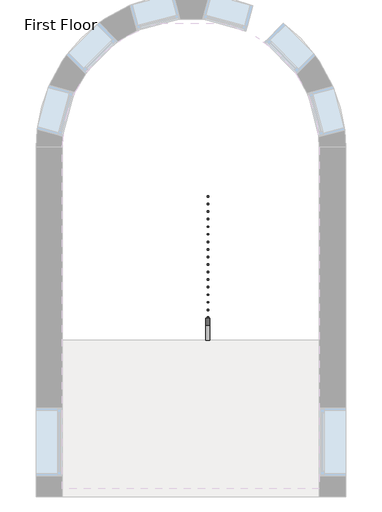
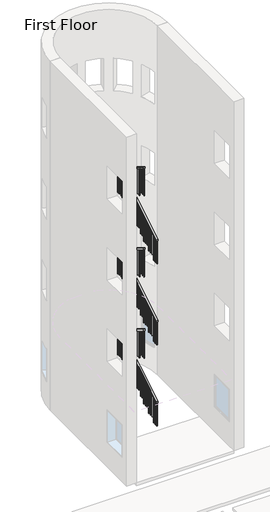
# One storey, part 4 of 5: 1 railing.
"""IFC4 building model written with IfcOpenShell, lengths in millimetres."""

from ifc_helpers import new_model, si_unit, frame, origin, place, context, project, spatial, polyline, outline, extrude, element, save

model = new_model("IFC4")

# Units and contexts
model_context = context("Model", 3, world=origin())
ifc_project = project(units=[si_unit("LENGTHUNIT", "METRE", prefix="MILLI")], contexts=[model_context])

# Site, building, storey
site = spatial("IfcSite", under=ifc_project)
building = spatial("IfcBuilding", under=site)
storey = spatial("IfcBuildingStorey", under=building, Name="First Floor", Elevation=0.0)

# Railing
placement = place(None, origin())
element("IfcRailing", 1, ObjectType="Handrail - Rectangular", at=placement, inside=storey, context=model_context, shape_type="SweptSolid", body=[
    extrude(outline(polyline([(7001.9758812, 7120.3318731), (7001.9758812, 7179.7333333), (9211.7758812, 8519.0060606), (9211.7758812, 8459.6046004), (7001.9758812, 7120.3318731)])), frame((-6042.4149687, 0.0, 0.0), z_axis=(1.0, 0.0, 0.0), x_axis=(0.0, 1.0, 0.0)), (0.0, 0.0, 1.0), 50.8),
    extrude(outline(polyline([(-5991.6149687, 9262.5758812), (-5991.6149687, 9211.7758812), (-6448.8149687, 9211.7758812), (-6448.8149687, 9262.5758812), (-5991.6149687, 9262.5758812)])), frame((0.0, 0.0, 8483.6), z_axis=(0.0, 0.0, 1.0), x_axis=(1.0, 0.0, 0.0)), (0.0, 0.0, 1.0), 50.8),
    extrude(outline(polyline([(9262.5758812, 8688.3393939), (9262.5758812, 8628.9379337), (7001.9758812, 9998.9985397), (7001.9758812, 10058.4), (9262.5758812, 8688.3393939)])), frame((-6499.6149687, 0.0, 0.0), z_axis=(1.0, 0.0, 0.0), x_axis=(0.0, 1.0, 0.0)), (0.0, 0.0, 1.0), 50.8),
    extrude(outline(polyline([(7113.1008812, 9931.6500549), (7113.1008812, 8974.6666667), (7094.0508812, 8974.6666667), (7094.0508812, 9943.1955094), (7113.1008812, 9931.6500549)])), frame((-6483.7399687, 0.0, 0.0), z_axis=(1.0, 0.0, 0.0), x_axis=(0.0, 1.0, 0.0)), (0.0, 0.0, 1.0), 19.05),
    extrude(outline(polyline([(7214.7008812, 9870.0742973), (7214.7008812, 8974.6666667), (7195.6508812, 8974.6666667), (7195.6508812, 9881.6197519), (7214.7008812, 9870.0742973)])), frame((-6483.7399687, 0.0, 0.0), z_axis=(1.0, 0.0, 0.0), x_axis=(0.0, 1.0, 0.0)), (0.0, 0.0, 1.0), 19.05),
    extrude(outline(polyline([(7316.3008812, 9808.4985397), (7316.3008812, 8805.3333333), (7297.2508812, 8805.3333333), (7297.2508812, 9820.0439943), (7316.3008812, 9808.4985397)])), frame((-6483.7399687, 0.0, 0.0), z_axis=(1.0, 0.0, 0.0), x_axis=(0.0, 1.0, 0.0)), (0.0, 0.0, 1.0), 19.05),
    extrude(outline(polyline([(7417.9008812, 9746.9227822), (7417.9008812, 8805.3333333), (7398.8508812, 8805.3333333), (7398.8508812, 9758.4682367), (7417.9008812, 9746.9227822)])), frame((-6483.7399687, 0.0, 0.0), z_axis=(1.0, 0.0, 0.0), x_axis=(0.0, 1.0, 0.0)), (0.0, 0.0, 1.0), 19.05),
    extrude(outline(polyline([(7519.5008812, 9685.3470246), (7519.5008812, 8805.3333333), (7500.4508812, 8805.3333333), (7500.4508812, 9696.8924791), (7519.5008812, 9685.3470246)])), frame((-6483.7399687, 0.0, 0.0), z_axis=(1.0, 0.0, 0.0), x_axis=(0.0, 1.0, 0.0)), (0.0, 0.0, 1.0), 19.05),
    extrude(outline(polyline([(7621.1008812, 9623.771267), (7621.1008812, 8636.0), (7602.0508812, 8636.0), (7602.0508812, 9635.3167216), (7621.1008812, 9623.771267)])), frame((-6483.7399687, 0.0, 0.0), z_axis=(1.0, 0.0, 0.0), x_axis=(0.0, 1.0, 0.0)), (0.0, 0.0, 1.0), 19.05),
    extrude(outline(polyline([(7722.7008812, 9562.1955094), (7722.7008812, 8636.0), (7703.6508812, 8636.0), (7703.6508812, 9573.740964), (7722.7008812, 9562.1955094)])), frame((-6483.7399687, 0.0, 0.0), z_axis=(1.0, 0.0, 0.0), x_axis=(0.0, 1.0, 0.0)), (0.0, 0.0, 1.0), 19.05),
    extrude(outline(polyline([(7824.3008812, 9500.6197519), (7824.3008812, 8636.0), (7805.2508812, 8636.0), (7805.2508812, 9512.1652064), (7824.3008812, 9500.6197519)])), frame((-6483.7399687, 0.0, 0.0), z_axis=(1.0, 0.0, 0.0), x_axis=(0.0, 1.0, 0.0)), (0.0, 0.0, 1.0), 19.05),
    extrude(outline(polyline([(7925.9008812, 9439.0439943), (7925.9008812, 8466.6666667), (7906.8508812, 8466.6666667), (7906.8508812, 9450.5894488), (7925.9008812, 9439.0439943)])), frame((-6483.7399687, 0.0, 0.0), z_axis=(1.0, 0.0, 0.0), x_axis=(0.0, 1.0, 0.0)), (0.0, 0.0, 1.0), 19.05),
    extrude(outline(polyline([(8027.5008812, 9377.4682367), (8027.5008812, 8466.6666667), (8008.4508812, 8466.6666667), (8008.4508812, 9389.0136913), (8027.5008812, 9377.4682367)])), frame((-6483.7399687, 0.0, 0.0), z_axis=(1.0, 0.0, 0.0), x_axis=(0.0, 1.0, 0.0)), (0.0, 0.0, 1.0), 19.05),
    extrude(outline(polyline([(8129.1008812, 9315.8924791), (8129.1008812, 8466.6666667), (8110.0508812, 8466.6666667), (8110.0508812, 9327.4379337), (8129.1008812, 9315.8924791)])), frame((-6483.7399687, 0.0, 0.0), z_axis=(1.0, 0.0, 0.0), x_axis=(0.0, 1.0, 0.0)), (0.0, 0.0, 1.0), 19.05),
    extrude(outline(polyline([(8230.7008812, 9254.3167216), (8230.7008812, 8297.3333333), (8211.6508812, 8297.3333333), (8211.6508812, 9265.8621761), (8230.7008812, 9254.3167216)])), frame((-6483.7399687, 0.0, 0.0), z_axis=(1.0, 0.0, 0.0), x_axis=(0.0, 1.0, 0.0)), (0.0, 0.0, 1.0), 19.05),
    extrude(outline(polyline([(8332.3008812, 9192.740964), (8332.3008812, 8297.3333333), (8313.2508812, 8297.3333333), (8313.2508812, 9204.2864185), (8332.3008812, 9192.740964)])), frame((-6483.7399687, 0.0, 0.0), z_axis=(1.0, 0.0, 0.0), x_axis=(0.0, 1.0, 0.0)), (0.0, 0.0, 1.0), 19.05),
    extrude(outline(polyline([(8433.9008812, 9131.1652064), (8433.9008812, 8128.0), (8414.8508812, 8128.0), (8414.8508812, 9142.710661), (8433.9008812, 9131.1652064)])), frame((-6483.7399687, 0.0, 0.0), z_axis=(1.0, 0.0, 0.0), x_axis=(0.0, 1.0, 0.0)), (0.0, 0.0, 1.0), 19.05),
    extrude(outline(polyline([(8535.5008812, 9069.5894488), (8535.5008812, 8128.0), (8516.4508812, 8128.0), (8516.4508812, 9081.1349034), (8535.5008812, 9069.5894488)])), frame((-6483.7399687, 0.0, 0.0), z_axis=(1.0, 0.0, 0.0), x_axis=(0.0, 1.0, 0.0)), (0.0, 0.0, 1.0), 19.05),
    extrude(outline(polyline([(8637.1008812, 9008.0136913), (8637.1008812, 8128.0), (8618.0508812, 8128.0), (8618.0508812, 9019.5591458), (8637.1008812, 9008.0136913)])), frame((-6483.7399687, 0.0, 0.0), z_axis=(1.0, 0.0, 0.0), x_axis=(0.0, 1.0, 0.0)), (0.0, 0.0, 1.0), 19.05),
    extrude(outline(polyline([(8738.7008812, 8946.4379337), (8738.7008812, 7958.6666667), (8719.6508812, 7958.6666667), (8719.6508812, 8957.9833882), (8738.7008812, 8946.4379337)])), frame((-6483.7399687, 0.0, 0.0), z_axis=(1.0, 0.0, 0.0), x_axis=(0.0, 1.0, 0.0)), (0.0, 0.0, 1.0), 19.05),
    extrude(outline(polyline([(8840.3008812, 8884.8621761), (8840.3008812, 7958.6666667), (8821.2508812, 7958.6666667), (8821.2508812, 8896.4076307), (8840.3008812, 8884.8621761)])), frame((-6483.7399687, 0.0, 0.0), z_axis=(1.0, 0.0, 0.0), x_axis=(0.0, 1.0, 0.0)), (0.0, 0.0, 1.0), 19.05),
    extrude(outline(polyline([(8941.9008812, 8823.2864185), (8941.9008812, 7958.6666667), (8922.8508812, 7958.6666667), (8922.8508812, 8834.8318731), (8941.9008812, 8823.2864185)])), frame((-6483.7399687, 0.0, 0.0), z_axis=(1.0, 0.0, 0.0), x_axis=(0.0, 1.0, 0.0)), (0.0, 0.0, 1.0), 19.05),
    extrude(outline(polyline([(9043.5008812, 8761.710661), (9043.5008812, 7789.3333333), (9024.4508812, 7789.3333333), (9024.4508812, 8773.2561155), (9043.5008812, 8761.710661)])), frame((-6483.7399687, 0.0, 0.0), z_axis=(1.0, 0.0, 0.0), x_axis=(0.0, 1.0, 0.0)), (0.0, 0.0, 1.0), 19.05),
    extrude(outline(polyline([(9145.1008812, 8700.1349034), (9145.1008812, 7789.3333333), (9126.0508812, 7789.3333333), (9126.0508812, 8711.6803579), (9145.1008812, 8700.1349034)])), frame((-6483.7399687, 0.0, 0.0), z_axis=(1.0, 0.0, 0.0), x_axis=(0.0, 1.0, 0.0)), (0.0, 0.0, 1.0), 19.05),
    extrude(outline(polyline([(-6413.8899687, 9227.6508812), (-6432.9399687, 9227.6508812), (-6432.9399687, 9246.7008812), (-6413.8899687, 9246.7008812), (-6413.8899687, 9227.6508812)])), frame((0.0, 0.0, 7620.0), z_axis=(0.0, 0.0, 1.0), x_axis=(1.0, 0.0, 0.0)), (0.0, 0.0, 1.0), 863.6),
    extrude(outline(polyline([(-6312.2899687, 9227.6508812), (-6331.3399687, 9227.6508812), (-6331.3399687, 9246.7008812), (-6312.2899687, 9246.7008812), (-6312.2899687, 9227.6508812)])), frame((0.0, 0.0, 7620.0), z_axis=(0.0, 0.0, 1.0), x_axis=(1.0, 0.0, 0.0)), (0.0, 0.0, 1.0), 863.6),
    extrude(outline(polyline([(-6210.6899687, 9227.6508812), (-6229.7399687, 9227.6508812), (-6229.7399687, 9246.7008812), (-6210.6899687, 9246.7008812), (-6210.6899687, 9227.6508812)])), frame((0.0, 0.0, 7620.0), z_axis=(0.0, 0.0, 1.0), x_axis=(1.0, 0.0, 0.0)), (0.0, 0.0, 1.0), 863.6),
    extrude(outline(polyline([(-6109.0899687, 9227.6508812), (-6128.1399687, 9227.6508812), (-6128.1399687, 9246.7008812), (-6109.0899687, 9246.7008812), (-6109.0899687, 9227.6508812)])), frame((0.0, 0.0, 7620.0), z_axis=(0.0, 0.0, 1.0), x_axis=(1.0, 0.0, 0.0)), (0.0, 0.0, 1.0), 863.6),
    extrude(outline(polyline([(9145.1008812, 8419.1955094), (9145.1008812, 7450.6666667), (9126.0508812, 7450.6666667), (9126.0508812, 8407.6500549), (9145.1008812, 8419.1955094)])), frame((-6026.5399687, 0.0, 0.0), z_axis=(1.0, 0.0, 0.0), x_axis=(0.0, 1.0, 0.0)), (0.0, 0.0, 1.0), 19.05),
    extrude(outline(polyline([(9043.5008812, 8357.6197519), (9043.5008812, 7450.6666667), (9024.4508812, 7450.6666667), (9024.4508812, 8346.0742973), (9043.5008812, 8357.6197519)])), frame((-6026.5399687, 0.0, 0.0), z_axis=(1.0, 0.0, 0.0), x_axis=(0.0, 1.0, 0.0)), (0.0, 0.0, 1.0), 19.05),
    extrude(outline(polyline([(8941.9008812, 8296.0439943), (8941.9008812, 7281.3333333), (8922.8508812, 7281.3333333), (8922.8508812, 8284.4985397), (8941.9008812, 8296.0439943)])), frame((-6026.5399687, 0.0, 0.0), z_axis=(1.0, 0.0, 0.0), x_axis=(0.0, 1.0, 0.0)), (0.0, 0.0, 1.0), 19.05),
    extrude(outline(polyline([(8840.3008812, 8234.4682367), (8840.3008812, 7281.3333333), (8821.2508812, 7281.3333333), (8821.2508812, 8222.9227822), (8840.3008812, 8234.4682367)])), frame((-6026.5399687, 0.0, 0.0), z_axis=(1.0, 0.0, 0.0), x_axis=(0.0, 1.0, 0.0)), (0.0, 0.0, 1.0), 19.05),
    extrude(outline(polyline([(8738.7008812, 8172.8924791), (8738.7008812, 7281.3333333), (8719.6508812, 7281.3333333), (8719.6508812, 8161.3470246), (8738.7008812, 8172.8924791)])), frame((-6026.5399687, 0.0, 0.0), z_axis=(1.0, 0.0, 0.0), x_axis=(0.0, 1.0, 0.0)), (0.0, 0.0, 1.0), 19.05),
    extrude(outline(polyline([(8637.1008812, 8111.3167216), (8637.1008812, 7112.0), (8618.0508812, 7112.0), (8618.0508812, 8099.771267), (8637.1008812, 8111.3167216)])), frame((-6026.5399687, 0.0, 0.0), z_axis=(1.0, 0.0, 0.0), x_axis=(0.0, 1.0, 0.0)), (0.0, 0.0, 1.0), 19.05),
    extrude(outline(polyline([(8535.5008812, 8049.740964), (8535.5008812, 7112.0), (8516.4508812, 7112.0), (8516.4508812, 8038.1955094), (8535.5008812, 8049.740964)])), frame((-6026.5399687, 0.0, 0.0), z_axis=(1.0, 0.0, 0.0), x_axis=(0.0, 1.0, 0.0)), (0.0, 0.0, 1.0), 19.05),
    extrude(outline(polyline([(8433.9008812, 7988.1652064), (8433.9008812, 7112.0), (8414.8508812, 7112.0), (8414.8508812, 7976.6197519), (8433.9008812, 7988.1652064)])), frame((-6026.5399687, 0.0, 0.0), z_axis=(1.0, 0.0, 0.0), x_axis=(0.0, 1.0, 0.0)), (0.0, 0.0, 1.0), 19.05),
    extrude(outline(polyline([(8332.3008812, 7926.5894488), (8332.3008812, 6942.6666667), (8313.2508812, 6942.6666667), (8313.2508812, 7915.0439943), (8332.3008812, 7926.5894488)])), frame((-6026.5399687, 0.0, 0.0), z_axis=(1.0, 0.0, 0.0), x_axis=(0.0, 1.0, 0.0)), (0.0, 0.0, 1.0), 19.05),
    extrude(outline(polyline([(8230.7008812, 7865.0136913), (8230.7008812, 6942.6666667), (8211.6508812, 6942.6666667), (8211.6508812, 7853.4682367), (8230.7008812, 7865.0136913)])), frame((-6026.5399687, 0.0, 0.0), z_axis=(1.0, 0.0, 0.0), x_axis=(0.0, 1.0, 0.0)), (0.0, 0.0, 1.0), 19.05),
    extrude(outline(polyline([(8129.1008812, 7803.4379337), (8129.1008812, 6942.6666667), (8110.0508812, 6942.6666667), (8110.0508812, 7791.8924791), (8129.1008812, 7803.4379337)])), frame((-6026.5399687, 0.0, 0.0), z_axis=(1.0, 0.0, 0.0), x_axis=(0.0, 1.0, 0.0)), (0.0, 0.0, 1.0), 19.05),
    extrude(outline(polyline([(8027.5008812, 7741.8621761), (8027.5008812, 6773.3333333), (8008.4508812, 6773.3333333), (8008.4508812, 7730.3167216), (8027.5008812, 7741.8621761)])), frame((-6026.5399687, 0.0, 0.0), z_axis=(1.0, 0.0, 0.0), x_axis=(0.0, 1.0, 0.0)), (0.0, 0.0, 1.0), 19.05),
    extrude(outline(polyline([(7925.9008812, 7680.2864185), (7925.9008812, 6773.3333333), (7906.8508812, 6773.3333333), (7906.8508812, 7668.740964), (7925.9008812, 7680.2864185)])), frame((-6026.5399687, 0.0, 0.0), z_axis=(1.0, 0.0, 0.0), x_axis=(0.0, 1.0, 0.0)), (0.0, 0.0, 1.0), 19.05),
    extrude(outline(polyline([(7824.3008812, 7618.710661), (7824.3008812, 6604.0), (7805.2508812, 6604.0), (7805.2508812, 7607.1652064), (7824.3008812, 7618.710661)])), frame((-6026.5399687, 0.0, 0.0), z_axis=(1.0, 0.0, 0.0), x_axis=(0.0, 1.0, 0.0)), (0.0, 0.0, 1.0), 19.05),
    extrude(outline(polyline([(7722.7008812, 7557.1349034), (7722.7008812, 6604.0), (7703.6508812, 6604.0), (7703.6508812, 7545.5894488), (7722.7008812, 7557.1349034)])), frame((-6026.5399687, 0.0, 0.0), z_axis=(1.0, 0.0, 0.0), x_axis=(0.0, 1.0, 0.0)), (0.0, 0.0, 1.0), 19.05),
    extrude(outline(polyline([(7621.1008812, 7495.5591458), (7621.1008812, 6604.0), (7602.0508812, 6604.0), (7602.0508812, 7484.0136913), (7621.1008812, 7495.5591458)])), frame((-6026.5399687, 0.0, 0.0), z_axis=(1.0, 0.0, 0.0), x_axis=(0.0, 1.0, 0.0)), (0.0, 0.0, 1.0), 19.05),
    extrude(outline(polyline([(7519.5008812, 7433.9833882), (7519.5008812, 6434.6666667), (7500.4508812, 6434.6666667), (7500.4508812, 7422.4379337), (7519.5008812, 7433.9833882)])), frame((-6026.5399687, 0.0, 0.0), z_axis=(1.0, 0.0, 0.0), x_axis=(0.0, 1.0, 0.0)), (0.0, 0.0, 1.0), 19.05),
    extrude(outline(polyline([(7417.9008812, 7372.4076307), (7417.9008812, 6434.6666667), (7398.8508812, 6434.6666667), (7398.8508812, 7360.8621761), (7417.9008812, 7372.4076307)])), frame((-6026.5399687, 0.0, 0.0), z_axis=(1.0, 0.0, 0.0), x_axis=(0.0, 1.0, 0.0)), (0.0, 0.0, 1.0), 19.05),
    extrude(outline(polyline([(7316.3008812, 7310.8318731), (7316.3008812, 6434.6666667), (7297.2508812, 6434.6666667), (7297.2508812, 7299.2864185), (7316.3008812, 7310.8318731)])), frame((-6026.5399687, 0.0, 0.0), z_axis=(1.0, 0.0, 0.0), x_axis=(0.0, 1.0, 0.0)), (0.0, 0.0, 1.0), 19.05),
    extrude(outline(polyline([(7214.7008812, 7249.2561155), (7214.7008812, 6265.3333333), (7195.6508812, 6265.3333333), (7195.6508812, 7237.710661), (7214.7008812, 7249.2561155)])), frame((-6026.5399687, 0.0, 0.0), z_axis=(1.0, 0.0, 0.0), x_axis=(0.0, 1.0, 0.0)), (0.0, 0.0, 1.0), 19.05),
    extrude(outline(polyline([(7113.1008812, 7187.6803579), (7113.1008812, 6265.3333333), (7094.0508812, 6265.3333333), (7094.0508812, 7176.1349034), (7113.1008812, 7187.6803579)])), frame((-6026.5399687, 0.0, 0.0), z_axis=(1.0, 0.0, 0.0), x_axis=(0.0, 1.0, 0.0)), (0.0, 0.0, 1.0), 19.05),
    extrude(outline(polyline([(9246.7008812, 8638.5591458), (9246.7008812, 7620.0), (9227.6508812, 7620.0), (9227.6508812, 8650.1046004), (9246.7008812, 8638.5591458)])), frame((-6483.7399687, 0.0, 0.0), z_axis=(1.0, 0.0, 0.0), x_axis=(0.0, 1.0, 0.0)), (0.0, 0.0, 1.0), 19.05),
    extrude(outline(polyline([(9246.7008812, 8480.771267), (9246.7008812, 7620.0), (9227.6508812, 7620.0), (9227.6508812, 8469.2258125), (9246.7008812, 8480.771267)])), frame((-6026.5399687, 0.0, 0.0), z_axis=(1.0, 0.0, 0.0), x_axis=(0.0, 1.0, 0.0)), (0.0, 0.0, 1.0), 19.05),
    extrude(outline(polyline([(7021.0258812, 9987.4530852), (7021.0258812, 8974.6666667), (7001.9758812, 8974.6666667), (7001.9758812, 9998.9985397), (7021.0258812, 9987.4530852)])), frame((-6483.7399687, 0.0, 0.0), z_axis=(1.0, 0.0, 0.0), x_axis=(0.0, 1.0, 0.0)), (0.0, 0.0, 1.0), 19.05),
    extrude(outline(polyline([(7021.0258812, 7131.8773276), (7021.0258812, 6265.3333333), (7001.9758812, 6265.3333333), (7001.9758812, 7120.3318731), (7021.0258812, 7131.8773276)])), frame((-6026.5399687, 0.0, 0.0), z_axis=(1.0, 0.0, 0.0), x_axis=(0.0, 1.0, 0.0)), (0.0, 0.0, 1.0), 19.05),
    extrude(outline(polyline([(7001.9758812, 4072.3318731), (7001.9758812, 4131.7333333), (9211.7758812, 5471.0060606), (9211.7758812, 5411.6046004), (7001.9758812, 4072.3318731)])), frame((-6042.4149687, 0.0, 0.0), z_axis=(1.0, 0.0, 0.0), x_axis=(0.0, 1.0, 0.0)), (0.0, 0.0, 1.0), 50.8),
    extrude(outline(polyline([(-5991.6149687, 9262.5758812), (-5991.6149687, 9211.7758812), (-6448.8149687, 9211.7758812), (-6448.8149687, 9262.5758812), (-5991.6149687, 9262.5758812)])), frame((0.0, 0.0, 5435.6), z_axis=(0.0, 0.0, 1.0), x_axis=(1.0, 0.0, 0.0)), (0.0, 0.0, 1.0), 50.8),
    extrude(outline(polyline([(9262.5758812, 5640.3393939), (9262.5758812, 5580.9379337), (7001.9758812, 6950.9985397), (7001.9758812, 7010.4), (9262.5758812, 5640.3393939)])), frame((-6499.6149687, 0.0, 0.0), z_axis=(1.0, 0.0, 0.0), x_axis=(0.0, 1.0, 0.0)), (0.0, 0.0, 1.0), 50.8),
    extrude(outline(polyline([(7113.1008812, 6883.6500549), (7113.1008812, 5926.6666667), (7094.0508812, 5926.6666667), (7094.0508812, 6895.1955094), (7113.1008812, 6883.6500549)])), frame((-6483.7399687, 0.0, 0.0), z_axis=(1.0, 0.0, 0.0), x_axis=(0.0, 1.0, 0.0)), (0.0, 0.0, 1.0), 19.05),
    extrude(outline(polyline([(7214.7008812, 6822.0742973), (7214.7008812, 5926.6666667), (7195.6508812, 5926.6666667), (7195.6508812, 6833.6197519), (7214.7008812, 6822.0742973)])), frame((-6483.7399687, 0.0, 0.0), z_axis=(1.0, 0.0, 0.0), x_axis=(0.0, 1.0, 0.0)), (0.0, 0.0, 1.0), 19.05),
    extrude(outline(polyline([(7316.3008812, 6760.4985397), (7316.3008812, 5757.3333333), (7297.2508812, 5757.3333333), (7297.2508812, 6772.0439943), (7316.3008812, 6760.4985397)])), frame((-6483.7399687, 0.0, 0.0), z_axis=(1.0, 0.0, 0.0), x_axis=(0.0, 1.0, 0.0)), (0.0, 0.0, 1.0), 19.05),
    extrude(outline(polyline([(7417.9008812, 6698.9227822), (7417.9008812, 5757.3333333), (7398.8508812, 5757.3333333), (7398.8508812, 6710.4682367), (7417.9008812, 6698.9227822)])), frame((-6483.7399687, 0.0, 0.0), z_axis=(1.0, 0.0, 0.0), x_axis=(0.0, 1.0, 0.0)), (0.0, 0.0, 1.0), 19.05),
    extrude(outline(polyline([(7519.5008812, 6637.3470246), (7519.5008812, 5757.3333333), (7500.4508812, 5757.3333333), (7500.4508812, 6648.8924791), (7519.5008812, 6637.3470246)])), frame((-6483.7399687, 0.0, 0.0), z_axis=(1.0, 0.0, 0.0), x_axis=(0.0, 1.0, 0.0)), (0.0, 0.0, 1.0), 19.05),
    extrude(outline(polyline([(7621.1008812, 6575.771267), (7621.1008812, 5588.0), (7602.0508812, 5588.0), (7602.0508812, 6587.3167216), (7621.1008812, 6575.771267)])), frame((-6483.7399687, 0.0, 0.0), z_axis=(1.0, 0.0, 0.0), x_axis=(0.0, 1.0, 0.0)), (0.0, 0.0, 1.0), 19.05),
    extrude(outline(polyline([(7722.7008812, 6514.1955094), (7722.7008812, 5588.0), (7703.6508812, 5588.0), (7703.6508812, 6525.740964), (7722.7008812, 6514.1955094)])), frame((-6483.7399687, 0.0, 0.0), z_axis=(1.0, 0.0, 0.0), x_axis=(0.0, 1.0, 0.0)), (0.0, 0.0, 1.0), 19.05),
    extrude(outline(polyline([(7824.3008812, 6452.6197519), (7824.3008812, 5588.0), (7805.2508812, 5588.0), (7805.2508812, 6464.1652064), (7824.3008812, 6452.6197519)])), frame((-6483.7399687, 0.0, 0.0), z_axis=(1.0, 0.0, 0.0), x_axis=(0.0, 1.0, 0.0)), (0.0, 0.0, 1.0), 19.05),
    extrude(outline(polyline([(7925.9008812, 6391.0439943), (7925.9008812, 5418.6666667), (7906.8508812, 5418.6666667), (7906.8508812, 6402.5894488), (7925.9008812, 6391.0439943)])), frame((-6483.7399687, 0.0, 0.0), z_axis=(1.0, 0.0, 0.0), x_axis=(0.0, 1.0, 0.0)), (0.0, 0.0, 1.0), 19.05),
    extrude(outline(polyline([(8027.5008812, 6329.4682367), (8027.5008812, 5418.6666667), (8008.4508812, 5418.6666667), (8008.4508812, 6341.0136913), (8027.5008812, 6329.4682367)])), frame((-6483.7399687, 0.0, 0.0), z_axis=(1.0, 0.0, 0.0), x_axis=(0.0, 1.0, 0.0)), (0.0, 0.0, 1.0), 19.05),
    extrude(outline(polyline([(8129.1008812, 6267.8924791), (8129.1008812, 5418.6666667), (8110.0508812, 5418.6666667), (8110.0508812, 6279.4379337), (8129.1008812, 6267.8924791)])), frame((-6483.7399687, 0.0, 0.0), z_axis=(1.0, 0.0, 0.0), x_axis=(0.0, 1.0, 0.0)), (0.0, 0.0, 1.0), 19.05),
    extrude(outline(polyline([(8230.7008812, 6206.3167216), (8230.7008812, 5249.3333333), (8211.6508812, 5249.3333333), (8211.6508812, 6217.8621761), (8230.7008812, 6206.3167216)])), frame((-6483.7399687, 0.0, 0.0), z_axis=(1.0, 0.0, 0.0), x_axis=(0.0, 1.0, 0.0)), (0.0, 0.0, 1.0), 19.05),
    extrude(outline(polyline([(8332.3008812, 6144.740964), (8332.3008812, 5249.3333333), (8313.2508812, 5249.3333333), (8313.2508812, 6156.2864185), (8332.3008812, 6144.740964)])), frame((-6483.7399687, 0.0, 0.0), z_axis=(1.0, 0.0, 0.0), x_axis=(0.0, 1.0, 0.0)), (0.0, 0.0, 1.0), 19.05),
    extrude(outline(polyline([(8433.9008812, 6083.1652064), (8433.9008812, 5080.0), (8414.8508812, 5080.0), (8414.8508812, 6094.710661), (8433.9008812, 6083.1652064)])), frame((-6483.7399687, 0.0, 0.0), z_axis=(1.0, 0.0, 0.0), x_axis=(0.0, 1.0, 0.0)), (0.0, 0.0, 1.0), 19.05),
    extrude(outline(polyline([(8535.5008812, 6021.5894488), (8535.5008812, 5080.0), (8516.4508812, 5080.0), (8516.4508812, 6033.1349034), (8535.5008812, 6021.5894488)])), frame((-6483.7399687, 0.0, 0.0), z_axis=(1.0, 0.0, 0.0), x_axis=(0.0, 1.0, 0.0)), (0.0, 0.0, 1.0), 19.05),
    extrude(outline(polyline([(8637.1008812, 5960.0136913), (8637.1008812, 5080.0), (8618.0508812, 5080.0), (8618.0508812, 5971.5591458), (8637.1008812, 5960.0136913)])), frame((-6483.7399687, 0.0, 0.0), z_axis=(1.0, 0.0, 0.0), x_axis=(0.0, 1.0, 0.0)), (0.0, 0.0, 1.0), 19.05),
    extrude(outline(polyline([(8738.7008812, 5898.4379337), (8738.7008812, 4910.6666667), (8719.6508812, 4910.6666667), (8719.6508812, 5909.9833882), (8738.7008812, 5898.4379337)])), frame((-6483.7399687, 0.0, 0.0), z_axis=(1.0, 0.0, 0.0), x_axis=(0.0, 1.0, 0.0)), (0.0, 0.0, 1.0), 19.05),
    extrude(outline(polyline([(8840.3008812, 5836.8621761), (8840.3008812, 4910.6666667), (8821.2508812, 4910.6666667), (8821.2508812, 5848.4076307), (8840.3008812, 5836.8621761)])), frame((-6483.7399687, 0.0, 0.0), z_axis=(1.0, 0.0, 0.0), x_axis=(0.0, 1.0, 0.0)), (0.0, 0.0, 1.0), 19.05),
    extrude(outline(polyline([(8941.9008812, 5775.2864185), (8941.9008812, 4910.6666667), (8922.8508812, 4910.6666667), (8922.8508812, 5786.8318731), (8941.9008812, 5775.2864185)])), frame((-6483.7399687, 0.0, 0.0), z_axis=(1.0, 0.0, 0.0), x_axis=(0.0, 1.0, 0.0)), (0.0, 0.0, 1.0), 19.05),
    extrude(outline(polyline([(9043.5008812, 5713.710661), (9043.5008812, 4741.3333333), (9024.4508812, 4741.3333333), (9024.4508812, 5725.2561155), (9043.5008812, 5713.710661)])), frame((-6483.7399687, 0.0, 0.0), z_axis=(1.0, 0.0, 0.0), x_axis=(0.0, 1.0, 0.0)), (0.0, 0.0, 1.0), 19.05),
    extrude(outline(polyline([(9145.1008812, 5652.1349034), (9145.1008812, 4741.3333333), (9126.0508812, 4741.3333333), (9126.0508812, 5663.6803579), (9145.1008812, 5652.1349034)])), frame((-6483.7399687, 0.0, 0.0), z_axis=(1.0, 0.0, 0.0), x_axis=(0.0, 1.0, 0.0)), (0.0, 0.0, 1.0), 19.05),
    extrude(outline(polyline([(-6413.8899687, 9227.6508812), (-6432.9399687, 9227.6508812), (-6432.9399687, 9246.7008812), (-6413.8899687, 9246.7008812), (-6413.8899687, 9227.6508812)])), frame((0.0, 0.0, 4572.0), z_axis=(0.0, 0.0, 1.0), x_axis=(1.0, 0.0, 0.0)), (0.0, 0.0, 1.0), 863.6),
    extrude(outline(polyline([(-6312.2899687, 9227.6508812), (-6331.3399687, 9227.6508812), (-6331.3399687, 9246.7008812), (-6312.2899687, 9246.7008812), (-6312.2899687, 9227.6508812)])), frame((0.0, 0.0, 4572.0), z_axis=(0.0, 0.0, 1.0), x_axis=(1.0, 0.0, 0.0)), (0.0, 0.0, 1.0), 863.6),
    extrude(outline(polyline([(-6210.6899687, 9227.6508812), (-6229.7399687, 9227.6508812), (-6229.7399687, 9246.7008812), (-6210.6899687, 9246.7008812), (-6210.6899687, 9227.6508812)])), frame((0.0, 0.0, 4572.0), z_axis=(0.0, 0.0, 1.0), x_axis=(1.0, 0.0, 0.0)), (0.0, 0.0, 1.0), 863.6),
    extrude(outline(polyline([(-6109.0899687, 9227.6508812), (-6128.1399687, 9227.6508812), (-6128.1399687, 9246.7008812), (-6109.0899687, 9246.7008812), (-6109.0899687, 9227.6508812)])), frame((0.0, 0.0, 4572.0), z_axis=(0.0, 0.0, 1.0), x_axis=(1.0, 0.0, 0.0)), (0.0, 0.0, 1.0), 863.6),
    extrude(outline(polyline([(9145.1008812, 5371.1955094), (9145.1008812, 4402.6666667), (9126.0508812, 4402.6666667), (9126.0508812, 5359.6500549), (9145.1008812, 5371.1955094)])), frame((-6026.5399687, 0.0, 0.0), z_axis=(1.0, 0.0, 0.0), x_axis=(0.0, 1.0, 0.0)), (0.0, 0.0, 1.0), 19.05),
    extrude(outline(polyline([(9043.5008812, 5309.6197519), (9043.5008812, 4402.6666667), (9024.4508812, 4402.6666667), (9024.4508812, 5298.0742973), (9043.5008812, 5309.6197519)])), frame((-6026.5399687, 0.0, 0.0), z_axis=(1.0, 0.0, 0.0), x_axis=(0.0, 1.0, 0.0)), (0.0, 0.0, 1.0), 19.05),
    extrude(outline(polyline([(8941.9008812, 5248.0439943), (8941.9008812, 4233.3333333), (8922.8508812, 4233.3333333), (8922.8508812, 5236.4985397), (8941.9008812, 5248.0439943)])), frame((-6026.5399687, 0.0, 0.0), z_axis=(1.0, 0.0, 0.0), x_axis=(0.0, 1.0, 0.0)), (0.0, 0.0, 1.0), 19.05),
    extrude(outline(polyline([(8840.3008812, 5186.4682367), (8840.3008812, 4233.3333333), (8821.2508812, 4233.3333333), (8821.2508812, 5174.9227822), (8840.3008812, 5186.4682367)])), frame((-6026.5399687, 0.0, 0.0), z_axis=(1.0, 0.0, 0.0), x_axis=(0.0, 1.0, 0.0)), (0.0, 0.0, 1.0), 19.05),
    extrude(outline(polyline([(8738.7008812, 5124.8924791), (8738.7008812, 4233.3333333), (8719.6508812, 4233.3333333), (8719.6508812, 5113.3470246), (8738.7008812, 5124.8924791)])), frame((-6026.5399687, 0.0, 0.0), z_axis=(1.0, 0.0, 0.0), x_axis=(0.0, 1.0, 0.0)), (0.0, 0.0, 1.0), 19.05),
    extrude(outline(polyline([(8637.1008812, 5063.3167216), (8637.1008812, 4064.0), (8618.0508812, 4064.0), (8618.0508812, 5051.771267), (8637.1008812, 5063.3167216)])), frame((-6026.5399687, 0.0, 0.0), z_axis=(1.0, 0.0, 0.0), x_axis=(0.0, 1.0, 0.0)), (0.0, 0.0, 1.0), 19.05),
    extrude(outline(polyline([(8535.5008812, 5001.740964), (8535.5008812, 4064.0), (8516.4508812, 4064.0), (8516.4508812, 4990.1955094), (8535.5008812, 5001.740964)])), frame((-6026.5399687, 0.0, 0.0), z_axis=(1.0, 0.0, 0.0), x_axis=(0.0, 1.0, 0.0)), (0.0, 0.0, 1.0), 19.05),
    extrude(outline(polyline([(8433.9008812, 4940.1652064), (8433.9008812, 4064.0), (8414.8508812, 4064.0), (8414.8508812, 4928.6197519), (8433.9008812, 4940.1652064)])), frame((-6026.5399687, 0.0, 0.0), z_axis=(1.0, 0.0, 0.0), x_axis=(0.0, 1.0, 0.0)), (0.0, 0.0, 1.0), 19.05),
    extrude(outline(polyline([(8332.3008812, 4878.5894488), (8332.3008812, 3894.6666667), (8313.2508812, 3894.6666667), (8313.2508812, 4867.0439943), (8332.3008812, 4878.5894488)])), frame((-6026.5399687, 0.0, 0.0), z_axis=(1.0, 0.0, 0.0), x_axis=(0.0, 1.0, 0.0)), (0.0, 0.0, 1.0), 19.05),
    extrude(outline(polyline([(8230.7008812, 4817.0136913), (8230.7008812, 3894.6666667), (8211.6508812, 3894.6666667), (8211.6508812, 4805.4682367), (8230.7008812, 4817.0136913)])), frame((-6026.5399687, 0.0, 0.0), z_axis=(1.0, 0.0, 0.0), x_axis=(0.0, 1.0, 0.0)), (0.0, 0.0, 1.0), 19.05),
    extrude(outline(polyline([(8129.1008812, 4755.4379337), (8129.1008812, 3894.6666667), (8110.0508812, 3894.6666667), (8110.0508812, 4743.8924791), (8129.1008812, 4755.4379337)])), frame((-6026.5399687, 0.0, 0.0), z_axis=(1.0, 0.0, 0.0), x_axis=(0.0, 1.0, 0.0)), (0.0, 0.0, 1.0), 19.05),
    extrude(outline(polyline([(8027.5008812, 4693.8621761), (8027.5008812, 3725.3333333), (8008.4508812, 3725.3333333), (8008.4508812, 4682.3167216), (8027.5008812, 4693.8621761)])), frame((-6026.5399687, 0.0, 0.0), z_axis=(1.0, 0.0, 0.0), x_axis=(0.0, 1.0, 0.0)), (0.0, 0.0, 1.0), 19.05),
    extrude(outline(polyline([(7925.9008812, 4632.2864185), (7925.9008812, 3725.3333333), (7906.8508812, 3725.3333333), (7906.8508812, 4620.740964), (7925.9008812, 4632.2864185)])), frame((-6026.5399687, 0.0, 0.0), z_axis=(1.0, 0.0, 0.0), x_axis=(0.0, 1.0, 0.0)), (0.0, 0.0, 1.0), 19.05),
    extrude(outline(polyline([(7824.3008812, 4570.710661), (7824.3008812, 3556.0), (7805.2508812, 3556.0), (7805.2508812, 4559.1652064), (7824.3008812, 4570.710661)])), frame((-6026.5399687, 0.0, 0.0), z_axis=(1.0, 0.0, 0.0), x_axis=(0.0, 1.0, 0.0)), (0.0, 0.0, 1.0), 19.05),
    extrude(outline(polyline([(7722.7008812, 4509.1349034), (7722.7008812, 3556.0), (7703.6508812, 3556.0), (7703.6508812, 4497.5894488), (7722.7008812, 4509.1349034)])), frame((-6026.5399687, 0.0, 0.0), z_axis=(1.0, 0.0, 0.0), x_axis=(0.0, 1.0, 0.0)), (0.0, 0.0, 1.0), 19.05),
    extrude(outline(polyline([(7621.1008812, 4447.5591458), (7621.1008812, 3556.0), (7602.0508812, 3556.0), (7602.0508812, 4436.0136913), (7621.1008812, 4447.5591458)])), frame((-6026.5399687, 0.0, 0.0), z_axis=(1.0, 0.0, 0.0), x_axis=(0.0, 1.0, 0.0)), (0.0, 0.0, 1.0), 19.05),
    extrude(outline(polyline([(7519.5008812, 4385.9833882), (7519.5008812, 3386.6666667), (7500.4508812, 3386.6666667), (7500.4508812, 4374.4379337), (7519.5008812, 4385.9833882)])), frame((-6026.5399687, 0.0, 0.0), z_axis=(1.0, 0.0, 0.0), x_axis=(0.0, 1.0, 0.0)), (0.0, 0.0, 1.0), 19.05),
    extrude(outline(polyline([(7417.9008812, 4324.4076307), (7417.9008812, 3386.6666667), (7398.8508812, 3386.6666667), (7398.8508812, 4312.8621761), (7417.9008812, 4324.4076307)])), frame((-6026.5399687, 0.0, 0.0), z_axis=(1.0, 0.0, 0.0), x_axis=(0.0, 1.0, 0.0)), (0.0, 0.0, 1.0), 19.05),
    extrude(outline(polyline([(7316.3008812, 4262.8318731), (7316.3008812, 3386.6666667), (7297.2508812, 3386.6666667), (7297.2508812, 4251.2864185), (7316.3008812, 4262.8318731)])), frame((-6026.5399687, 0.0, 0.0), z_axis=(1.0, 0.0, 0.0), x_axis=(0.0, 1.0, 0.0)), (0.0, 0.0, 1.0), 19.05),
    extrude(outline(polyline([(7214.7008812, 4201.2561155), (7214.7008812, 3217.3333333), (7195.6508812, 3217.3333333), (7195.6508812, 4189.710661), (7214.7008812, 4201.2561155)])), frame((-6026.5399687, 0.0, 0.0), z_axis=(1.0, 0.0, 0.0), x_axis=(0.0, 1.0, 0.0)), (0.0, 0.0, 1.0), 19.05),
    extrude(outline(polyline([(7113.1008812, 4139.6803579), (7113.1008812, 3217.3333333), (7094.0508812, 3217.3333333), (7094.0508812, 4128.1349034), (7113.1008812, 4139.6803579)])), frame((-6026.5399687, 0.0, 0.0), z_axis=(1.0, 0.0, 0.0), x_axis=(0.0, 1.0, 0.0)), (0.0, 0.0, 1.0), 19.05),
    extrude(outline(polyline([(9246.7008812, 5590.5591458), (9246.7008812, 4572.0), (9227.6508812, 4572.0), (9227.6508812, 5602.1046004), (9246.7008812, 5590.5591458)])), frame((-6483.7399687, 0.0, 0.0), z_axis=(1.0, 0.0, 0.0), x_axis=(0.0, 1.0, 0.0)), (0.0, 0.0, 1.0), 19.05),
    extrude(outline(polyline([(9246.7008812, 5432.771267), (9246.7008812, 4572.0), (9227.6508812, 4572.0), (9227.6508812, 5421.2258125), (9246.7008812, 5432.771267)])), frame((-6026.5399687, 0.0, 0.0), z_axis=(1.0, 0.0, 0.0), x_axis=(0.0, 1.0, 0.0)), (0.0, 0.0, 1.0), 19.05),
    extrude(outline(polyline([(7021.0258812, 6939.4530852), (7021.0258812, 5926.6666667), (7001.9758812, 5926.6666667), (7001.9758812, 6950.9985397), (7021.0258812, 6939.4530852)])), frame((-6483.7399687, 0.0, 0.0), z_axis=(1.0, 0.0, 0.0), x_axis=(0.0, 1.0, 0.0)), (0.0, 0.0, 1.0), 19.05),
    extrude(outline(polyline([(7021.0258812, 4083.8773276), (7021.0258812, 3217.3333333), (7001.9758812, 3217.3333333), (7001.9758812, 4072.3318731), (7021.0258812, 4083.8773276)])), frame((-6026.5399687, 0.0, 0.0), z_axis=(1.0, 0.0, 0.0), x_axis=(0.0, 1.0, 0.0)), (0.0, 0.0, 1.0), 19.05),
    extrude(outline(polyline([(7001.9758812, 1024.3318731), (7001.9758812, 1083.7333333), (9211.7758812, 2423.0060606), (9211.7758812, 2363.6046004), (7001.9758812, 1024.3318731)])), frame((-6042.4149687, 0.0, 0.0), z_axis=(1.0, 0.0, 0.0), x_axis=(0.0, 1.0, 0.0)), (0.0, 0.0, 1.0), 50.8),
    extrude(outline(polyline([(-5991.6149687, 9262.5758812), (-5991.6149687, 9211.7758812), (-6448.8149687, 9211.7758812), (-6448.8149687, 9262.5758812), (-5991.6149687, 9262.5758812)])), frame((0.0, 0.0, 2387.6), z_axis=(0.0, 0.0, 1.0), x_axis=(1.0, 0.0, 0.0)), (0.0, 0.0, 1.0), 50.8),
    extrude(outline(polyline([(9262.5758812, 2592.3393939), (9262.5758812, 2532.9379337), (7001.9758812, 3902.9985397), (7001.9758812, 3962.4), (9262.5758812, 2592.3393939)])), frame((-6499.6149687, 0.0, 0.0), z_axis=(1.0, 0.0, 0.0), x_axis=(0.0, 1.0, 0.0)), (0.0, 0.0, 1.0), 50.8),
    extrude(outline(polyline([(7113.1008812, 3835.6500549), (7113.1008812, 2878.6666667), (7094.0508812, 2878.6666667), (7094.0508812, 3847.1955094), (7113.1008812, 3835.6500549)])), frame((-6483.7399687, 0.0, 0.0), z_axis=(1.0, 0.0, 0.0), x_axis=(0.0, 1.0, 0.0)), (0.0, 0.0, 1.0), 19.05),
    extrude(outline(polyline([(7214.7008812, 3774.0742973), (7214.7008812, 2878.6666667), (7195.6508812, 2878.6666667), (7195.6508812, 3785.6197519), (7214.7008812, 3774.0742973)])), frame((-6483.7399687, 0.0, 0.0), z_axis=(1.0, 0.0, 0.0), x_axis=(0.0, 1.0, 0.0)), (0.0, 0.0, 1.0), 19.05),
    extrude(outline(polyline([(7316.3008812, 3712.4985397), (7316.3008812, 2709.3333333), (7297.2508812, 2709.3333333), (7297.2508812, 3724.0439943), (7316.3008812, 3712.4985397)])), frame((-6483.7399687, 0.0, 0.0), z_axis=(1.0, 0.0, 0.0), x_axis=(0.0, 1.0, 0.0)), (0.0, 0.0, 1.0), 19.05),
    extrude(outline(polyline([(7417.9008812, 3650.9227822), (7417.9008812, 2709.3333333), (7398.8508812, 2709.3333333), (7398.8508812, 3662.4682367), (7417.9008812, 3650.9227822)])), frame((-6483.7399687, 0.0, 0.0), z_axis=(1.0, 0.0, 0.0), x_axis=(0.0, 1.0, 0.0)), (0.0, 0.0, 1.0), 19.05),
    extrude(outline(polyline([(7519.5008812, 3589.3470246), (7519.5008812, 2709.3333333), (7500.4508812, 2709.3333333), (7500.4508812, 3600.8924791), (7519.5008812, 3589.3470246)])), frame((-6483.7399687, 0.0, 0.0), z_axis=(1.0, 0.0, 0.0), x_axis=(0.0, 1.0, 0.0)), (0.0, 0.0, 1.0), 19.05),
    extrude(outline(polyline([(7621.1008812, 3527.771267), (7621.1008812, 2540.0), (7602.0508812, 2540.0), (7602.0508812, 3539.3167216), (7621.1008812, 3527.771267)])), frame((-6483.7399687, 0.0, 0.0), z_axis=(1.0, 0.0, 0.0), x_axis=(0.0, 1.0, 0.0)), (0.0, 0.0, 1.0), 19.05),
    extrude(outline(polyline([(7722.7008812, 3466.1955094), (7722.7008812, 2540.0), (7703.6508812, 2540.0), (7703.6508812, 3477.740964), (7722.7008812, 3466.1955094)])), frame((-6483.7399687, 0.0, 0.0), z_axis=(1.0, 0.0, 0.0), x_axis=(0.0, 1.0, 0.0)), (0.0, 0.0, 1.0), 19.05),
    extrude(outline(polyline([(7824.3008812, 3404.6197519), (7824.3008812, 2540.0), (7805.2508812, 2540.0), (7805.2508812, 3416.1652064), (7824.3008812, 3404.6197519)])), frame((-6483.7399687, 0.0, 0.0), z_axis=(1.0, 0.0, 0.0), x_axis=(0.0, 1.0, 0.0)), (0.0, 0.0, 1.0), 19.05),
    extrude(outline(polyline([(7925.9008812, 3343.0439943), (7925.9008812, 2370.6666667), (7906.8508812, 2370.6666667), (7906.8508812, 3354.5894488), (7925.9008812, 3343.0439943)])), frame((-6483.7399687, 0.0, 0.0), z_axis=(1.0, 0.0, 0.0), x_axis=(0.0, 1.0, 0.0)), (0.0, 0.0, 1.0), 19.05),
    extrude(outline(polyline([(8027.5008812, 3281.4682367), (8027.5008812, 2370.6666667), (8008.4508812, 2370.6666667), (8008.4508812, 3293.0136913), (8027.5008812, 3281.4682367)])), frame((-6483.7399687, 0.0, 0.0), z_axis=(1.0, 0.0, 0.0), x_axis=(0.0, 1.0, 0.0)), (0.0, 0.0, 1.0), 19.05),
    extrude(outline(polyline([(8129.1008812, 3219.8924791), (8129.1008812, 2370.6666667), (8110.0508812, 2370.6666667), (8110.0508812, 3231.4379337), (8129.1008812, 3219.8924791)])), frame((-6483.7399687, 0.0, 0.0), z_axis=(1.0, 0.0, 0.0), x_axis=(0.0, 1.0, 0.0)), (0.0, 0.0, 1.0), 19.05),
    extrude(outline(polyline([(8230.7008812, 3158.3167216), (8230.7008812, 2201.3333333), (8211.6508812, 2201.3333333), (8211.6508812, 3169.8621761), (8230.7008812, 3158.3167216)])), frame((-6483.7399687, 0.0, 0.0), z_axis=(1.0, 0.0, 0.0), x_axis=(0.0, 1.0, 0.0)), (0.0, 0.0, 1.0), 19.05),
    extrude(outline(polyline([(8332.3008812, 3096.740964), (8332.3008812, 2201.3333333), (8313.2508812, 2201.3333333), (8313.2508812, 3108.2864185), (8332.3008812, 3096.740964)])), frame((-6483.7399687, 0.0, 0.0), z_axis=(1.0, 0.0, 0.0), x_axis=(0.0, 1.0, 0.0)), (0.0, 0.0, 1.0), 19.05),
    extrude(outline(polyline([(8433.9008812, 3035.1652064), (8433.9008812, 2032.0), (8414.8508812, 2032.0), (8414.8508812, 3046.710661), (8433.9008812, 3035.1652064)])), frame((-6483.7399687, 0.0, 0.0), z_axis=(1.0, 0.0, 0.0), x_axis=(0.0, 1.0, 0.0)), (0.0, 0.0, 1.0), 19.05),
    extrude(outline(polyline([(8535.5008812, 2973.5894488), (8535.5008812, 2032.0), (8516.4508812, 2032.0), (8516.4508812, 2985.1349034), (8535.5008812, 2973.5894488)])), frame((-6483.7399687, 0.0, 0.0), z_axis=(1.0, 0.0, 0.0), x_axis=(0.0, 1.0, 0.0)), (0.0, 0.0, 1.0), 19.05),
    extrude(outline(polyline([(8637.1008812, 2912.0136913), (8637.1008812, 2032.0), (8618.0508812, 2032.0), (8618.0508812, 2923.5591458), (8637.1008812, 2912.0136913)])), frame((-6483.7399687, 0.0, 0.0), z_axis=(1.0, 0.0, 0.0), x_axis=(0.0, 1.0, 0.0)), (0.0, 0.0, 1.0), 19.05),
    extrude(outline(polyline([(8738.7008812, 2850.4379337), (8738.7008812, 1862.6666667), (8719.6508812, 1862.6666667), (8719.6508812, 2861.9833882), (8738.7008812, 2850.4379337)])), frame((-6483.7399687, 0.0, 0.0), z_axis=(1.0, 0.0, 0.0), x_axis=(0.0, 1.0, 0.0)), (0.0, 0.0, 1.0), 19.05),
    extrude(outline(polyline([(8840.3008812, 2788.8621761), (8840.3008812, 1862.6666667), (8821.2508812, 1862.6666667), (8821.2508812, 2800.4076307), (8840.3008812, 2788.8621761)])), frame((-6483.7399687, 0.0, 0.0), z_axis=(1.0, 0.0, 0.0), x_axis=(0.0, 1.0, 0.0)), (0.0, 0.0, 1.0), 19.05),
    extrude(outline(polyline([(8941.9008812, 2727.2864185), (8941.9008812, 1862.6666667), (8922.8508812, 1862.6666667), (8922.8508812, 2738.8318731), (8941.9008812, 2727.2864185)])), frame((-6483.7399687, 0.0, 0.0), z_axis=(1.0, 0.0, 0.0), x_axis=(0.0, 1.0, 0.0)), (0.0, 0.0, 1.0), 19.05),
    extrude(outline(polyline([(9043.5008812, 2665.710661), (9043.5008812, 1693.3333333), (9024.4508812, 1693.3333333), (9024.4508812, 2677.2561155), (9043.5008812, 2665.710661)])), frame((-6483.7399687, 0.0, 0.0), z_axis=(1.0, 0.0, 0.0), x_axis=(0.0, 1.0, 0.0)), (0.0, 0.0, 1.0), 19.05),
    extrude(outline(polyline([(9145.1008812, 2604.1349034), (9145.1008812, 1693.3333333), (9126.0508812, 1693.3333333), (9126.0508812, 2615.6803579), (9145.1008812, 2604.1349034)])), frame((-6483.7399687, 0.0, 0.0), z_axis=(1.0, 0.0, 0.0), x_axis=(0.0, 1.0, 0.0)), (0.0, 0.0, 1.0), 19.05),
    extrude(outline(polyline([(-6413.8899687, 9227.6508812), (-6432.9399687, 9227.6508812), (-6432.9399687, 9246.7008812), (-6413.8899687, 9246.7008812), (-6413.8899687, 9227.6508812)])), frame((0.0, 0.0, 1524.0), z_axis=(0.0, 0.0, 1.0), x_axis=(1.0, 0.0, 0.0)), (0.0, 0.0, 1.0), 863.6),
    extrude(outline(polyline([(-6312.2899687, 9227.6508812), (-6331.3399687, 9227.6508812), (-6331.3399687, 9246.7008812), (-6312.2899687, 9246.7008812), (-6312.2899687, 9227.6508812)])), frame((0.0, 0.0, 1524.0), z_axis=(0.0, 0.0, 1.0), x_axis=(1.0, 0.0, 0.0)), (0.0, 0.0, 1.0), 863.6),
    extrude(outline(polyline([(-6210.6899687, 9227.6508812), (-6229.7399687, 9227.6508812), (-6229.7399687, 9246.7008812), (-6210.6899687, 9246.7008812), (-6210.6899687, 9227.6508812)])), frame((0.0, 0.0, 1524.0), z_axis=(0.0, 0.0, 1.0), x_axis=(1.0, 0.0, 0.0)), (0.0, 0.0, 1.0), 863.6),
    extrude(outline(polyline([(-6109.0899687, 9227.6508812), (-6128.1399687, 9227.6508812), (-6128.1399687, 9246.7008812), (-6109.0899687, 9246.7008812), (-6109.0899687, 9227.6508812)])), frame((0.0, 0.0, 1524.0), z_axis=(0.0, 0.0, 1.0), x_axis=(1.0, 0.0, 0.0)), (0.0, 0.0, 1.0), 863.6),
    extrude(outline(polyline([(9145.1008812, 2323.1955094), (9145.1008812, 1354.6666667), (9126.0508812, 1354.6666667), (9126.0508812, 2311.6500549), (9145.1008812, 2323.1955094)])), frame((-6026.5399687, 0.0, 0.0), z_axis=(1.0, 0.0, 0.0), x_axis=(0.0, 1.0, 0.0)), (0.0, 0.0, 1.0), 19.05),
    extrude(outline(polyline([(9043.5008812, 2261.6197519), (9043.5008812, 1354.6666667), (9024.4508812, 1354.6666667), (9024.4508812, 2250.0742973), (9043.5008812, 2261.6197519)])), frame((-6026.5399687, 0.0, 0.0), z_axis=(1.0, 0.0, 0.0), x_axis=(0.0, 1.0, 0.0)), (0.0, 0.0, 1.0), 19.05),
    extrude(outline(polyline([(8941.9008812, 2200.0439943), (8941.9008812, 1185.3333333), (8922.8508812, 1185.3333333), (8922.8508812, 2188.4985397), (8941.9008812, 2200.0439943)])), frame((-6026.5399687, 0.0, 0.0), z_axis=(1.0, 0.0, 0.0), x_axis=(0.0, 1.0, 0.0)), (0.0, 0.0, 1.0), 19.05),
    extrude(outline(polyline([(8840.3008812, 2138.4682367), (8840.3008812, 1185.3333333), (8821.2508812, 1185.3333333), (8821.2508812, 2126.9227822), (8840.3008812, 2138.4682367)])), frame((-6026.5399687, 0.0, 0.0), z_axis=(1.0, 0.0, 0.0), x_axis=(0.0, 1.0, 0.0)), (0.0, 0.0, 1.0), 19.05),
    extrude(outline(polyline([(8738.7008812, 2076.8924791), (8738.7008812, 1185.3333333), (8719.6508812, 1185.3333333), (8719.6508812, 2065.3470246), (8738.7008812, 2076.8924791)])), frame((-6026.5399687, 0.0, 0.0), z_axis=(1.0, 0.0, 0.0), x_axis=(0.0, 1.0, 0.0)), (0.0, 0.0, 1.0), 19.05),
    extrude(outline(polyline([(8637.1008812, 2015.3167216), (8637.1008812, 1016.0), (8618.0508812, 1016.0), (8618.0508812, 2003.771267), (8637.1008812, 2015.3167216)])), frame((-6026.5399687, 0.0, 0.0), z_axis=(1.0, 0.0, 0.0), x_axis=(0.0, 1.0, 0.0)), (0.0, 0.0, 1.0), 19.05),
    extrude(outline(polyline([(8535.5008812, 1953.740964), (8535.5008812, 1016.0), (8516.4508812, 1016.0), (8516.4508812, 1942.1955094), (8535.5008812, 1953.740964)])), frame((-6026.5399687, 0.0, 0.0), z_axis=(1.0, 0.0, 0.0), x_axis=(0.0, 1.0, 0.0)), (0.0, 0.0, 1.0), 19.05),
    extrude(outline(polyline([(8433.9008812, 1892.1652064), (8433.9008812, 1016.0), (8414.8508812, 1016.0), (8414.8508812, 1880.6197519), (8433.9008812, 1892.1652064)])), frame((-6026.5399687, 0.0, 0.0), z_axis=(1.0, 0.0, 0.0), x_axis=(0.0, 1.0, 0.0)), (0.0, 0.0, 1.0), 19.05),
    extrude(outline(polyline([(8332.3008812, 1830.5894488), (8332.3008812, 846.6666667), (8313.2508812, 846.6666667), (8313.2508812, 1819.0439943), (8332.3008812, 1830.5894488)])), frame((-6026.5399687, 0.0, 0.0), z_axis=(1.0, 0.0, 0.0), x_axis=(0.0, 1.0, 0.0)), (0.0, 0.0, 1.0), 19.05),
    extrude(outline(polyline([(8230.7008812, 1769.0136913), (8230.7008812, 846.6666667), (8211.6508812, 846.6666667), (8211.6508812, 1757.4682367), (8230.7008812, 1769.0136913)])), frame((-6026.5399687, 0.0, 0.0), z_axis=(1.0, 0.0, 0.0), x_axis=(0.0, 1.0, 0.0)), (0.0, 0.0, 1.0), 19.05),
    extrude(outline(polyline([(8129.1008812, 1707.4379337), (8129.1008812, 846.6666667), (8110.0508812, 846.6666667), (8110.0508812, 1695.8924791), (8129.1008812, 1707.4379337)])), frame((-6026.5399687, 0.0, 0.0), z_axis=(1.0, 0.0, 0.0), x_axis=(0.0, 1.0, 0.0)), (0.0, 0.0, 1.0), 19.05),
    extrude(outline(polyline([(8027.5008812, 1645.8621761), (8027.5008812, 677.3333333), (8008.4508812, 677.3333333), (8008.4508812, 1634.3167216), (8027.5008812, 1645.8621761)])), frame((-6026.5399687, 0.0, 0.0), z_axis=(1.0, 0.0, 0.0), x_axis=(0.0, 1.0, 0.0)), (0.0, 0.0, 1.0), 19.05),
    extrude(outline(polyline([(7925.9008812, 1584.2864185), (7925.9008812, 677.3333333), (7906.8508812, 677.3333333), (7906.8508812, 1572.740964), (7925.9008812, 1584.2864185)])), frame((-6026.5399687, 0.0, 0.0), z_axis=(1.0, 0.0, 0.0), x_axis=(0.0, 1.0, 0.0)), (0.0, 0.0, 1.0), 19.05),
    extrude(outline(polyline([(7824.3008812, 1522.710661), (7824.3008812, 508.0), (7805.2508812, 508.0), (7805.2508812, 1511.1652064), (7824.3008812, 1522.710661)])), frame((-6026.5399687, 0.0, 0.0), z_axis=(1.0, 0.0, 0.0), x_axis=(0.0, 1.0, 0.0)), (0.0, 0.0, 1.0), 19.05),
    extrude(outline(polyline([(7722.7008812, 1461.1349034), (7722.7008812, 508.0), (7703.6508812, 508.0), (7703.6508812, 1449.5894488), (7722.7008812, 1461.1349034)])), frame((-6026.5399687, 0.0, 0.0), z_axis=(1.0, 0.0, 0.0), x_axis=(0.0, 1.0, 0.0)), (0.0, 0.0, 1.0), 19.05),
    extrude(outline(polyline([(7621.1008812, 1399.5591458), (7621.1008812, 508.0), (7602.0508812, 508.0), (7602.0508812, 1388.0136913), (7621.1008812, 1399.5591458)])), frame((-6026.5399687, 0.0, 0.0), z_axis=(1.0, 0.0, 0.0), x_axis=(0.0, 1.0, 0.0)), (0.0, 0.0, 1.0), 19.05),
    extrude(outline(polyline([(7519.5008812, 1337.9833882), (7519.5008812, 338.6666667), (7500.4508812, 338.6666667), (7500.4508812, 1326.4379337), (7519.5008812, 1337.9833882)])), frame((-6026.5399687, 0.0, 0.0), z_axis=(1.0, 0.0, 0.0), x_axis=(0.0, 1.0, 0.0)), (0.0, 0.0, 1.0), 19.05),
    extrude(outline(polyline([(7417.9008812, 1276.4076307), (7417.9008812, 338.6666667), (7398.8508812, 338.6666667), (7398.8508812, 1264.8621761), (7417.9008812, 1276.4076307)])), frame((-6026.5399687, 0.0, 0.0), z_axis=(1.0, 0.0, 0.0), x_axis=(0.0, 1.0, 0.0)), (0.0, 0.0, 1.0), 19.05),
    extrude(outline(polyline([(7316.3008812, 1214.8318731), (7316.3008812, 338.6666667), (7297.2508812, 338.6666667), (7297.2508812, 1203.2864185), (7316.3008812, 1214.8318731)])), frame((-6026.5399687, 0.0, 0.0), z_axis=(1.0, 0.0, 0.0), x_axis=(0.0, 1.0, 0.0)), (0.0, 0.0, 1.0), 19.05),
    extrude(outline(polyline([(7214.7008812, 1153.2561155), (7214.7008812, 169.3333333), (7195.6508812, 169.3333333), (7195.6508812, 1141.710661), (7214.7008812, 1153.2561155)])), frame((-6026.5399687, 0.0, 0.0), z_axis=(1.0, 0.0, 0.0), x_axis=(0.0, 1.0, 0.0)), (0.0, 0.0, 1.0), 19.05),
    extrude(outline(polyline([(7113.1008812, 1091.6803579), (7113.1008812, 169.3333333), (7094.0508812, 169.3333333), (7094.0508812, 1080.1349034), (7113.1008812, 1091.6803579)])), frame((-6026.5399687, 0.0, 0.0), z_axis=(1.0, 0.0, 0.0), x_axis=(0.0, 1.0, 0.0)), (0.0, 0.0, 1.0), 19.05),
    extrude(outline(polyline([(9246.7008812, 2542.5591458), (9246.7008812, 1524.0), (9227.6508812, 1524.0), (9227.6508812, 2554.1046004), (9246.7008812, 2542.5591458)])), frame((-6483.7399687, 0.0, 0.0), z_axis=(1.0, 0.0, 0.0), x_axis=(0.0, 1.0, 0.0)), (0.0, 0.0, 1.0), 19.05),
    extrude(outline(polyline([(9246.7008812, 2384.771267), (9246.7008812, 1524.0), (9227.6508812, 1524.0), (9227.6508812, 2373.2258125), (9246.7008812, 2384.771267)])), frame((-6026.5399687, 0.0, 0.0), z_axis=(1.0, 0.0, 0.0), x_axis=(0.0, 1.0, 0.0)), (0.0, 0.0, 1.0), 19.05),
    extrude(outline(polyline([(7021.0258812, 3891.4530852), (7021.0258812, 2878.6666667), (7001.9758812, 2878.6666667), (7001.9758812, 3902.9985397), (7021.0258812, 3891.4530852)])), frame((-6483.7399687, 0.0, 0.0), z_axis=(1.0, 0.0, 0.0), x_axis=(0.0, 1.0, 0.0)), (0.0, 0.0, 1.0), 19.05),
    extrude(outline(polyline([(7021.0258812, 1035.8773276), (7021.0258812, 169.3333333), (7001.9758812, 169.3333333), (7001.9758812, 1024.3318731), (7021.0258812, 1035.8773276)])), frame((-6026.5399687, 0.0, 0.0), z_axis=(1.0, 0.0, 0.0), x_axis=(0.0, 1.0, 0.0)), (0.0, 0.0, 1.0), 19.05),
])

save(model, "model.ifc")
